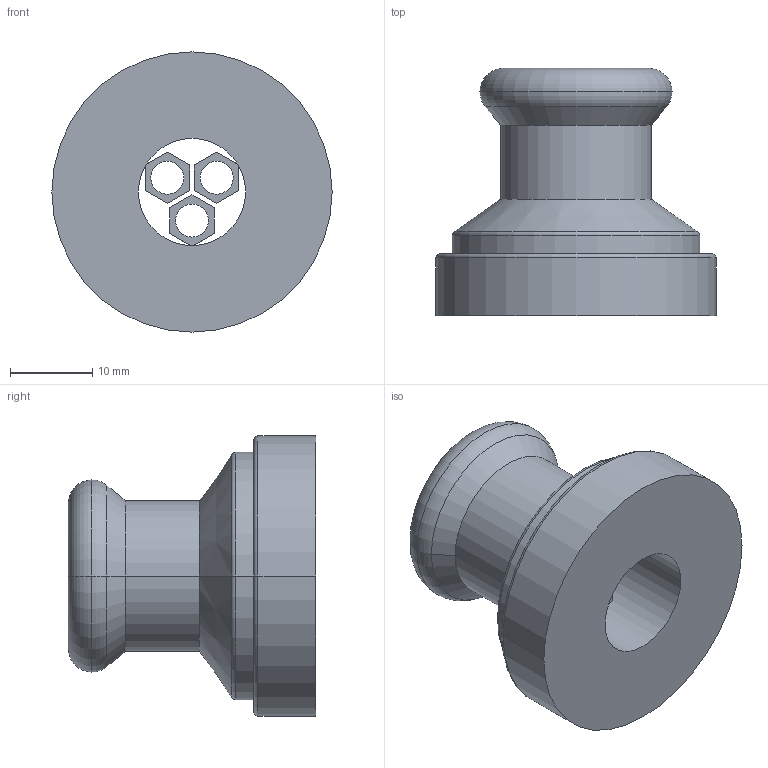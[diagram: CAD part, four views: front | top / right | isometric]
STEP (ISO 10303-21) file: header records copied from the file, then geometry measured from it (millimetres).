
FILE_DESCRIPTION(('OneSpaceDesigner STEP Export'),'2;1');
FILE_NAME('R2736 15x1 1-8.stp','2010-06-10T14:02:01',(''),(''),'OneSpace Designer STEP processor for AP214 (Solid Model)','OneSpace Modeling 15.00A 14-Mar-2007 (C) CoCreate Software GmbH','');
FILE_SCHEMA(('AUTOMOTIVE_DESIGN { 1 0 10303 214 1 1 1 1 }'));
Length unit declared in the file: millimetre
Products named in the file (2): R2736_15x1.1-8
Assembly tree (1 placements, depth 2):
  R2736_15x1.1-8
    R2736_15x1.1-8
Bounding box: 34 x 30 x 34 mm (x, y, z)
Volume: 10484.9 mm3; surface area: 5454.5 mm2
Topology: 1 solids, 1 shells, 65 faces, 157 edges, 100 vertices
Faces by surface type: plane 32, cylinder 21, torus 8, cone 4
Entity records: 1736 total; most frequent: ORIENTED_EDGE 314, CARTESIAN_POINT 278, DIRECTION 265, EDGE_CURVE 157, VERTEX_POINT 100, VECTOR 91, LINE 91, AXIS2_PLACEMENT_3D 87
